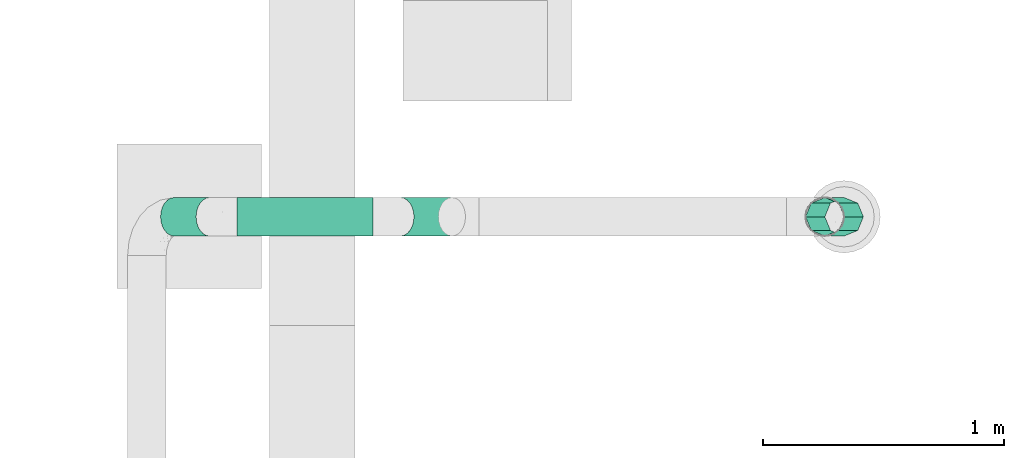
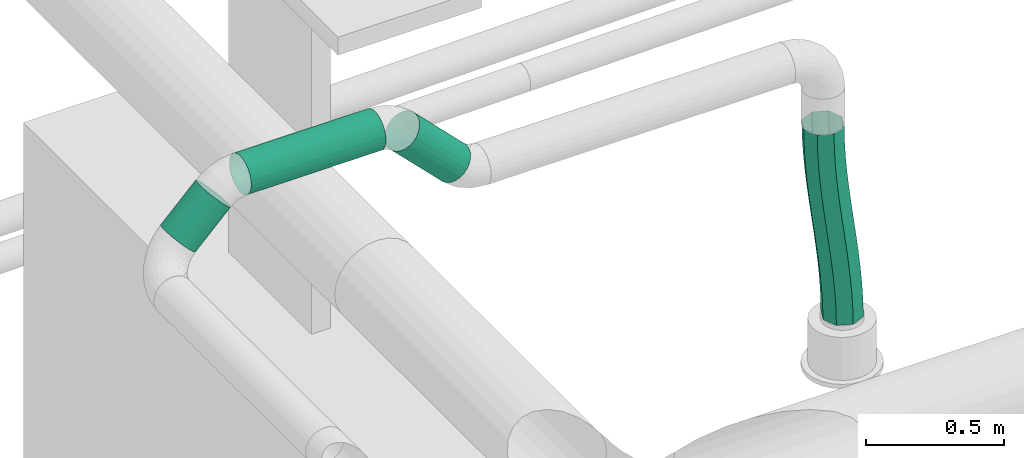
# One storey, part 250 of 374: 4 flow segments.
"""IFC2X3 building model written with IfcOpenShell, lengths in metres."""

from ifc_helpers import new_model, si_unit, direction, origin, place, context, subcontext, project, spatial, open_shell, surface_model, source, transform, mapped, element, save


model = new_model("IFC2X3")

# Units and contexts
model_context = context("Model", 3, precision=1e-05, world=origin(), true_north=direction((-0.4480736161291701, 0.8939966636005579)))
body_context = subcontext(model_context, "Body", "Model", "MODEL_VIEW")
ifc_project = project(units=[si_unit("LENGTHUNIT", "METRE"), si_unit("AREAUNIT", "SQUARE_METRE"), si_unit("VOLUMEUNIT", "CUBIC_METRE"), si_unit("PLANEANGLEUNIT", "RADIAN"), si_unit("THERMODYNAMICTEMPERATUREUNIT", "KELVIN"), si_unit("MASSUNIT", "GRAM", prefix="KILO"), si_unit("TIMEUNIT", "SECOND")], contexts=[model_context])

# Site, building, storey
site_placement = place(None, origin())
site = spatial("IfcSite", under=ifc_project, at=site_placement, Name="Site 1", CompositionType="ELEMENT")
building_placement = place(site_placement, origin())
building = spatial("IfcBuilding", under=site, at=building_placement, Name="Undefined", CompositionType="ELEMENT")
storey_placement = place(building_placement, origin())
storey = spatial("IfcBuildingStorey", under=building, at=storey_placement, Name="Rez de chauss\x8ee", CompositionType="ELEMENT", Elevation=0.0)

# Flow segments
shared_shape_1 = source(origin(), body_context, "Body", "SurfaceModel", [
    surface_model("IfcFaceBasedSurfaceModel", [(0.0, 0.020884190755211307, 0.0), (0.0, 0.0, 0.0), (0.30236881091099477, -7.105427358e-15, -1.776356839e-15), (0.30236881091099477, 0.0208841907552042, -8.8817842e-16), (0.0, -0.020172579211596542, -0.005405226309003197), (0.30236881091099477, -0.020172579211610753, -0.005405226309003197), (0.0, -0.03825881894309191, -0.015847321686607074), (0.30236881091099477, -0.038258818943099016, -0.015847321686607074), (0.0, -0.05302617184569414, -0.0306146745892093), (0.3023688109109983, -0.05302617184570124, -0.0306146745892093), (0.0, -0.06346826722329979, -0.04870091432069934), (0.30236881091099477, -0.0634682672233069, -0.04870091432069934), (0.0, -0.06887349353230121, -0.06887349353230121), (0.3023688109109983, -0.06887349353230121, -0.06887349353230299), (0.0, -0.06887349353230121, -0.08975768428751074), (0.30236881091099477, -0.06887349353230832, -0.08975768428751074), (0.0, -0.06346826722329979, -0.10993026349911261), (0.3023688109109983, -0.0634682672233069, -0.10993026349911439), (0.0, -0.05302617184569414, -0.12801650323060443), (0.30236881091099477, -0.05302617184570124, -0.12801650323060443), (0.0, -0.038258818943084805, -0.14278385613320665), (0.30236881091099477, -0.03825881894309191, -0.14278385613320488), (0.0, -0.020172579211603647, -0.15322595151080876), (0.3023688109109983, -0.020172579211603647, -0.15322595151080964), (0.0, 7.105427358e-15, -0.15863117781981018), (0.3023688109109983, 0.0, -0.15863117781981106), (0.0, 0.020884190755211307, -0.15863117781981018), (0.30236881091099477, 0.0208841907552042, -0.15863117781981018), (0.0, 0.04105676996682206, -0.15322595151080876), (0.30236881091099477, 0.041056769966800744, -0.15322595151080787), (0.0, 0.05914300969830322, -0.1427838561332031), (0.3023688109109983, 0.05914300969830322, -0.142783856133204), (0.0, 0.07391036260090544, -0.12801650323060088), (0.30236881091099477, 0.07391036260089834, -0.12801650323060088), (0.0, 0.0843524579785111, -0.10993026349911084), (0.3023688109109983, 0.08435245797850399, -0.10993026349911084), (0.0, 0.08975768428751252, -0.08975768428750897), (0.30236881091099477, 0.08975768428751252, -0.08975768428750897), (0.0, 0.08975768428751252, -0.06887349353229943), (0.3023688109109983, 0.08975768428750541, -0.06887349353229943), (0.0, 0.0843524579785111, -0.048700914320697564), (0.30236881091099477, 0.08435245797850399, -0.04870091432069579), (0.0, 0.07391036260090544, -0.030614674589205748), (0.3023688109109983, 0.07391036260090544, -0.030614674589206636), (0.0, 0.05914300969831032, -0.015847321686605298), (0.3023688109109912, 0.059143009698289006, -0.015847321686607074), (0.0, 0.04105676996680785, -0.005405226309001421), (0.30236881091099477, 0.041056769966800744, -0.005405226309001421)], [open_shell([[[0, 1, 2, 3]], [[1, 4, 5, 2]], [[4, 6, 7, 5]], [[6, 8, 9, 7]], [[8, 10, 11, 9]], [[10, 12, 13, 11]], [[12, 14, 15, 13]], [[14, 16, 17, 15]], [[16, 18, 19, 17]], [[18, 20, 21, 19]], [[20, 22, 23, 21]], [[22, 24, 25, 23]], [[24, 26, 27, 25]], [[26, 28, 29, 27]], [[28, 30, 31, 29]], [[30, 32, 33, 31]], [[32, 34, 35, 33]], [[34, 36, 37, 35]], [[36, 38, 39, 37]], [[38, 40, 41, 39]], [[40, 42, 43, 41]], [[42, 44, 45, 43]], [[44, 46, 47, 45]], [[46, 0, 3, 47]]])]),
])
flow_segment_1_placement = place(storey_placement, origin())
element("IfcFlowSegment", 1, at=flow_segment_1_placement, inside=storey, Name="Tube", ObjectType="Tube", context=body_context, shape_type="MappedRepresentation", body=[
    mapped(shared_shape_1, transform((46.529312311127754, 10.30835850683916, 3.8615039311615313), x_axis=(-0.7071067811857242, -1.962615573e-15, 0.7071067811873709), y_axis=(-0.701057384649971, -0.13052619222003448, -0.701057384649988), z_axis=(0.09229595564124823, -0.9914448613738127, 0.09229595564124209))),
])
shared_shape_2 = source(origin(), body_context, "Body", "SurfaceModel", [
    surface_model("IfcFaceBasedSurfaceModel", [(0.0, 0.020884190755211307, 0.0), (0.0, 0.0, 0.0), (0.5637199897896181, 4.4408921e-16, 0.0), (0.5637199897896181, 0.020884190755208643, 0.0), (0.0, -0.020172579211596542, -0.005405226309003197), (0.5637199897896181, -0.02017257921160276, -0.005405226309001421), (0.0, -0.03825881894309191, -0.015847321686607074), (0.5637199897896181, -0.03825881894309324, -0.015847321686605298), (0.0, -0.05302617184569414, -0.0306146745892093), (0.5637199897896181, -0.05302617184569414, -0.030614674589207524), (0.0, -0.06346826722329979, -0.04870091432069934), (0.5637199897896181, -0.06346826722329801, -0.048700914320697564), (0.0, -0.06887349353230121, -0.06887349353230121), (0.5637199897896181, -0.06887349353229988, -0.06887349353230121), (0.0, -0.06887349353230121, -0.08975768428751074), (0.5637199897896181, -0.06887349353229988, -0.08975768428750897), (0.0, -0.06346826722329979, -0.10993026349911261), (0.5637199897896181, -0.06346826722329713, -0.10993026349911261), (0.0, -0.05302617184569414, -0.12801650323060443), (0.5637199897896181, -0.05302617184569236, -0.12801650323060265), (0.0, -0.038258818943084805, -0.14278385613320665), (0.5637199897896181, -0.03825881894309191, -0.1427838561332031), (0.0, -0.020172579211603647, -0.15322595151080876), (0.5637199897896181, -0.020172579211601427, -0.15322595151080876), (0.0, 7.105427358e-15, -0.15863117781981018), (0.5637199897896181, 1.776356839e-15, -0.15863117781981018), (0.0, 0.020884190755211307, -0.15863117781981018), (0.5637199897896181, 0.020884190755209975, -0.15863117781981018), (0.0, 0.04105676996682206, -0.15322595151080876), (0.5637199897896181, 0.04105676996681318, -0.15322595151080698), (0.0, 0.05914300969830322, -0.1427838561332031), (0.5637199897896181, 0.059143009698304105, -0.1427838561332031), (0.0, 0.07391036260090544, -0.12801650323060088), (0.5637199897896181, 0.07391036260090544, -0.12801650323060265), (0.0, 0.0843524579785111, -0.10993026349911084), (0.5637199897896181, 0.08435245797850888, -0.10993026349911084), (0.0, 0.08975768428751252, -0.08975768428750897), (0.5637199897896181, 0.0897576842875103, -0.08975768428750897), (0.0, 0.08975768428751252, -0.06887349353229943), (0.5637199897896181, 0.08975768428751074, -0.06887349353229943), (0.0, 0.0843524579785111, -0.048700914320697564), (0.5637199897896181, 0.08435245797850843, -0.048700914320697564), (0.0, 0.07391036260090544, -0.030614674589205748), (0.5637199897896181, 0.07391036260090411, -0.030614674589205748), (0.0, 0.05914300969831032, -0.015847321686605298), (0.5637199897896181, 0.05914300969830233, -0.015847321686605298), (0.0, 0.04105676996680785, -0.005405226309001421), (0.5637199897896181, 0.041056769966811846, -0.005405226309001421)], [open_shell([[[0, 1, 2, 3]], [[1, 4, 5, 2]], [[4, 6, 7, 5]], [[6, 8, 9, 7]], [[8, 10, 11, 9]], [[10, 12, 13, 11]], [[12, 14, 15, 13]], [[14, 16, 17, 15]], [[16, 18, 19, 17]], [[18, 20, 21, 19]], [[20, 22, 23, 21]], [[22, 24, 25, 23]], [[24, 26, 27, 25]], [[26, 28, 29, 27]], [[28, 30, 31, 29]], [[30, 32, 33, 31]], [[32, 34, 35, 33]], [[34, 36, 37, 35]], [[36, 38, 39, 37]], [[38, 40, 41, 39]], [[40, 42, 43, 41]], [[42, 44, 45, 43]], [[44, 46, 47, 45]], [[46, 0, 3, 47]]])]),
])
flow_segment_2_placement = place(storey_placement, origin())
element("IfcFlowSegment", 2, at=flow_segment_2_placement, inside=storey, Name="Tube", ObjectType="Tube", context=body_context, shape_type="MappedRepresentation", body=[
    mapped(shared_shape_2, transform((45.62397431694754, 10.462906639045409, 4.1282055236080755), x_axis=(1.0, 0.0, 0.0), y_axis=(0.0, 0.13052619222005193, -0.9914448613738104), z_axis=(0.0, 0.9914448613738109, 0.1305261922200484))),
])
shared_shape_3 = source(origin(), body_context, "Body", "SurfaceModel", [
    surface_model("IfcFaceBasedSurfaceModel", [(0.20859650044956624, 0.0, -3.552713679e-15), (0.20859650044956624, 0.020884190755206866, -3.552713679e-15), (0.0, 0.020884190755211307, 0.0), (0.0, 0.0, 0.0), (0.20859650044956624, 0.0410567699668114, -0.005405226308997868), (0.0, 0.04105676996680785, -0.005405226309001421), (0.20859650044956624, 0.05914300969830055, -0.015847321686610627), (0.0, 0.05914300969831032, -0.015847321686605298), (0.20859650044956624, 0.07391036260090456, -0.030614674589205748), (0.0, 0.07391036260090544, -0.030614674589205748), (0.20859650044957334, 0.08435245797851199, -0.04870091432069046), (0.0, 0.0843524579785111, -0.048700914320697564), (0.20859650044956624, 0.08975768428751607, -0.06887349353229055), (0.0, 0.08975768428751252, -0.06887349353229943), (0.20859650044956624, 0.08975768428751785, -0.08975768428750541), (0.0, 0.08975768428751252, -0.08975768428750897), (0.20859650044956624, 0.0843524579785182, -0.10993026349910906), (0.0, 0.0843524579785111, -0.10993026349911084), (0.20859650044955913, 0.0739103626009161, -0.12801650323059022), (0.0, 0.07391036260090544, -0.12801650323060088), (0.20859650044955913, 0.059143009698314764, -0.14278385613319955), (0.0, 0.05914300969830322, -0.1427838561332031), (0.20859650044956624, 0.041056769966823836, -0.1532259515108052), (0.0, 0.04105676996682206, -0.15322595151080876), (0.20859650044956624, 0.020884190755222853, -0.15863117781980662), (0.0, 0.020884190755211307, -0.15863117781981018), (0.20859650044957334, 1.4210854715e-14, -0.15863117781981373), (0.0, 7.105427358e-15, -0.15863117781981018), (0.20859650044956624, -0.02017257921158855, -0.1532259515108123), (0.0, -0.020172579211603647, -0.15322595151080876), (0.20859650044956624, -0.03825881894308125, -0.14278385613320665), (0.0, -0.038258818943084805, -0.14278385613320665), (0.20859650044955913, -0.05302617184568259, -0.12801650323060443), (0.0, -0.05302617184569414, -0.12801650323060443), (0.20859650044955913, -0.06346826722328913, -0.10993026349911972), (0.0, -0.06346826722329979, -0.10993026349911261), (0.20859650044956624, -0.06887349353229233, -0.08975768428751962), (0.0, -0.06887349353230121, -0.08975768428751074), (0.20859650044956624, -0.0688734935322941, -0.06887349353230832), (0.0, -0.06887349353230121, -0.06887349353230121), (0.20859650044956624, -0.06346826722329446, -0.048700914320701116), (0.0, -0.06346826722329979, -0.04870091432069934), (0.20859650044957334, -0.05302617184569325, -0.030614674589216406), (0.0, -0.05302617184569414, -0.0306146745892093), (0.20859650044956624, -0.0382588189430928, -0.015847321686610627), (0.0, -0.03825881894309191, -0.015847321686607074), (0.20859650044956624, -0.020172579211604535, -0.005405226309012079), (0.0, -0.020172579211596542, -0.005405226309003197)], [open_shell([[[0, 1, 2, 3]], [[1, 4, 5, 2]], [[4, 6, 7, 5]], [[6, 8, 9, 7]], [[8, 10, 11, 9]], [[10, 12, 13, 11]], [[12, 14, 15, 13]], [[14, 16, 17, 15]], [[16, 18, 19, 17]], [[18, 20, 21, 19]], [[20, 22, 23, 21]], [[22, 24, 25, 23]], [[24, 26, 27, 25]], [[26, 28, 29, 27]], [[28, 30, 31, 29]], [[30, 32, 33, 31]], [[32, 34, 35, 33]], [[34, 36, 37, 35]], [[36, 38, 39, 37]], [[38, 40, 41, 39]], [[40, 42, 43, 41]], [[42, 44, 45, 43]], [[44, 46, 47, 45]], [[46, 0, 3, 47]]])]),
])
flow_segment_3_placement = place(storey_placement, origin())
element("IfcFlowSegment", 3, at=flow_segment_3_placement, inside=storey, Name="Tube", ObjectType="Tube", context=body_context, shape_type="MappedRepresentation", body=[
    mapped(shared_shape_3, transform((45.56740577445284, 10.385632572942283, 4.004068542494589), x_axis=(-0.7071067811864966, 0.0, -0.7071067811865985), y_axis=(-0.09229595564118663, 0.9914448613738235, 0.09229595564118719), z_axis=(0.7010573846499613, 0.13052619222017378, -0.7010573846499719))),
])
shared_shape_4 = source(origin(), body_context, "Body", "SurfaceModel", [
    surface_model("IfcFaceBasedSurfaceModel", [(0.09725409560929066, 0.0, 0.0), (0.05831469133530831, 0.047252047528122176, 0.0), (0.0, 0.0, 0.0), (0.03819787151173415, -0.047853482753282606, 1.0800056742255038e-06), (-0.05866964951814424, -0.04613450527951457, -0.0026363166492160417), (-0.021104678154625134, -0.09448639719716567, -0.002662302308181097), (-0.11750086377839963, -0.09128984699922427, -0.0073553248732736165), (-0.08043118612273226, -0.14002246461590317, -0.007419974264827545), (-0.1763631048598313, -0.1356511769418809, -0.013611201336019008), (-0.13964817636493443, -0.18465155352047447, -0.013712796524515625), (-0.23513013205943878, -0.1794020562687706, -0.02086763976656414), (-0.19862825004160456, -0.22856128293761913, -0.02099508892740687), (-0.29367773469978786, -0.22272275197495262, -0.0285976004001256), (-0.25724687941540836, -0.27193461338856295, -0.028734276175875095), (-0.3518823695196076, -0.26578929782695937, -0.036282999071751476), (-0.31538048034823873, -0.31494851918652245, -0.036410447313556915), (-0.4096207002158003, -0.3087731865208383, -0.043414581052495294), (-0.3729057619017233, -0.3577735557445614, -0.043516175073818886), (-0.4667700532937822, -0.3518416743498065, -0.04949204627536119), (-0.4297003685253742, -0.4005742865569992, -0.04955669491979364), (-0.5232097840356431, -0.39515872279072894, -0.054024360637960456), (-0.48564481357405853, -0.44351061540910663, -0.054050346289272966), (-0.5788235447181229, -0.43888670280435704, -0.05653000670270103), (-0.5406256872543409, -0.4867401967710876, -0.056528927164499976), (-0.6335578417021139, -0.48323475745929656, -0.05653526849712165), (-0.5946184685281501, -0.5304868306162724, -0.05653526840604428), (0.030113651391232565, 0.08011485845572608, -0.04328706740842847), (-0.0264108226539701, 0.03431480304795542, -0.04328967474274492), (-0.08355251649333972, -0.010616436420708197, -0.045860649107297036), (-0.14118798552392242, -0.05485262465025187, -0.05048631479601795), (-0.19919378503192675, -0.09856752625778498, -0.056652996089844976), (-0.2574464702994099, -0.14193490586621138, -0.0638470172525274), (-0.31582259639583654, -0.18512852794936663, -0.07155470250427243), (-0.37419872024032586, -0.22832215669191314, -0.07926237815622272), (-0.43245139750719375, -0.27168954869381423, -0.08645637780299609), (-0.49045718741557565, -0.31540446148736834, -0.09262303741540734), (-0.5480926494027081, -0.359640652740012, -0.09724869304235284), (-0.6052343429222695, -0.4045718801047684, -0.09981968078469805), (-0.6617588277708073, -0.4503719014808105, -0.09982233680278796), (0.029170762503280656, 0.07933784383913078, -0.10450422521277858), (-0.02556349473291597, 0.034989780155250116, -0.10450943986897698), (-0.08117723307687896, -0.008738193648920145, -0.10701507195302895), (-0.13761695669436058, -0.05205522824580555, -0.11154739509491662), (-0.19476631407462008, -0.09512370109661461, -0.11762488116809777), (-0.25250465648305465, -0.13810758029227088, -0.12475648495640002), (-0.31070930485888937, -0.18117412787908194, -0.1324418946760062), (-0.36925691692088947, -0.22449483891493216, -0.1401718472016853), (-0.4280239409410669, -0.26824573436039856, -0.14742826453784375), (-0.4868861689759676, -0.31260707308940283, -0.15368411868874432), (-0.545717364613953, -0.3577624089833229, -0.15840311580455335), (-0.6043869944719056, -0.40389688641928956, -0.16103944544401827), (-0.6627016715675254, -0.4511488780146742, -0.16103949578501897), (0.05603835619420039, 0.045376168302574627, -0.14779129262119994), (0.0020456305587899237, 0.001629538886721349, -0.14779758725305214), (-0.052935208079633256, -0.04160002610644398, -0.15027615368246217), (-0.1088796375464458, -0.0845363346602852, -0.15476981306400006), (-0.16567424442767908, -0.12733704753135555, -0.16081035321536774), (-0.2231995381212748, -0.17016207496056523, -0.16791610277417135), (-0.2813331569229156, -0.2131759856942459, -0.17559228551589), (-0.3399518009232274, -0.2565493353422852, -0.18333146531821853), (-0.39893187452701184, -0.3004590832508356, -0.19061373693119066), (-0.458148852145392, -0.3450881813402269, -0.19690653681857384), (-0.5174753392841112, -0.3906242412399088, -0.2016641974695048), (-0.576777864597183, -0.4372571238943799, -0.20432759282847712), (-0.6358340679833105, -0.4851105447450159, -0.20432656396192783), (0.09497776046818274, -0.0018758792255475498, -0.14779129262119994), (0.04024350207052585, -0.04622394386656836, -0.1477965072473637), (-0.01537023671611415, -0.08995191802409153, -0.15030213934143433), (-0.07180995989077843, -0.13326895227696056, -0.154834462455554), (-0.1289593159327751, -0.17633742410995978, -0.16091194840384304), (-0.18669765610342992, -0.21932130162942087, -0.16804355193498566), (-0.244902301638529, -0.26238784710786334, -0.17572896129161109), (-0.303449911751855, -0.3057085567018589, -0.18345891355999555), (-0.3622169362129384, -0.3494594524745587, -0.19071533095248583), (-0.42107916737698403, -0.39382079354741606, -0.1969711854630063), (-0.4799103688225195, -0.43897613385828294, -0.201690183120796), (-0.5385800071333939, -0.4851106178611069, -0.20432651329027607), (-0.5968946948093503, -0.5323626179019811, -0.20432656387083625), (0.12317880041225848, -0.03473869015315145, -0.10450422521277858), (0.0666543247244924, -0.08053874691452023, -0.10450683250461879), (0.009512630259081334, -0.12546998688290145, -0.10707780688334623), (-0.048122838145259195, -0.1697061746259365, -0.11170347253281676), (-0.10612863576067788, -0.2134210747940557, -0.11787015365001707), (-0.16438131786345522, -0.25678845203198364, -0.1250641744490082), (-0.22275743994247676, -0.2999820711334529, -0.13277185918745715), (-0.2811335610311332, -0.3431756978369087, -0.1404795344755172), (-0.33938623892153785, -0.3865430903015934, -0.14767353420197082), (-0.397392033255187, -0.43025800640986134, -0.15384019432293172), (-0.45502750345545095, -0.47449420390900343, -0.1584658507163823), (-0.5121692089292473, -0.5194254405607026, -0.16103683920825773), (-0.5686937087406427, -0.5652254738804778, -0.16103949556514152), (0.12412168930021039, -0.03396167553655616, -0.043287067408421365), (0.06580699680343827, -0.08121372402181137, -0.04328706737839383), (0.007137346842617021, -0.1273482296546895, -0.04592338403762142), (-0.05169386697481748, -0.17250357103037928, -0.05064239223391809), (-0.11055610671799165, -0.2168648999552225, -0.05689826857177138), (-0.1693231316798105, -0.2606157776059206, -0.06415470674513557), (-0.2278707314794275, -0.30393647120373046, -0.07188466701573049), (-0.2860753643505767, -0.34700301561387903, -0.07957006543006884), (-0.3438136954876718, -0.3899869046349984, -0.08670164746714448), (-0.4009630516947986, -0.4330553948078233, -0.09277911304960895), (-0.4574027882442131, -0.476372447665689, -0.09731142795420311), (-0.5130165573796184, -0.5201004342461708, -0.09981707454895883), (-0.5677508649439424, -0.5644484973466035, -0.09982233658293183)], [open_shell([[[0, 1, 2]], [[2, 3, 0]], [[3, 2, 4]], [[4, 5, 3]], [[5, 4, 6]], [[6, 7, 5]], [[7, 6, 8]], [[8, 9, 7]], [[9, 8, 10]], [[10, 11, 9]], [[11, 10, 12]], [[12, 13, 11]], [[13, 12, 14]], [[14, 15, 13]], [[15, 14, 16]], [[16, 17, 15]], [[17, 16, 18]], [[18, 19, 17]], [[19, 18, 20]], [[20, 21, 19]], [[21, 20, 22]], [[22, 23, 21]], [[23, 22, 24]], [[24, 25, 23]], [[1, 26, 27]], [[27, 2, 1]], [[2, 27, 28]], [[28, 4, 2]], [[4, 28, 29]], [[29, 6, 4]], [[6, 29, 30]], [[30, 8, 6]], [[8, 30, 31]], [[31, 10, 8]], [[10, 31, 32]], [[32, 12, 10]], [[12, 32, 33]], [[33, 14, 12]], [[14, 33, 34]], [[34, 16, 14]], [[16, 34, 35]], [[35, 18, 16]], [[18, 35, 36]], [[36, 20, 18]], [[20, 36, 37]], [[37, 22, 20]], [[22, 37, 38]], [[38, 24, 22]], [[26, 39, 40]], [[40, 27, 26]], [[27, 40, 41]], [[41, 28, 27]], [[28, 41, 42]], [[42, 29, 28]], [[29, 42, 43]], [[43, 30, 29]], [[30, 43, 44]], [[44, 31, 30]], [[31, 44, 45]], [[45, 32, 31]], [[32, 45, 46]], [[46, 33, 32]], [[33, 46, 47]], [[47, 34, 33]], [[34, 47, 48]], [[48, 35, 34]], [[35, 48, 49]], [[49, 36, 35]], [[36, 49, 50]], [[50, 37, 36]], [[37, 50, 51]], [[51, 38, 37]], [[39, 52, 53]], [[53, 40, 39]], [[40, 53, 54]], [[54, 41, 40]], [[41, 54, 55]], [[55, 42, 41]], [[42, 55, 56]], [[56, 43, 42]], [[43, 56, 57]], [[57, 44, 43]], [[44, 57, 58]], [[58, 45, 44]], [[45, 58, 59]], [[59, 46, 45]], [[46, 59, 60]], [[60, 47, 46]], [[47, 60, 61]], [[61, 48, 47]], [[48, 61, 62]], [[62, 49, 48]], [[49, 62, 63]], [[63, 50, 49]], [[50, 63, 64]], [[64, 51, 50]], [[52, 65, 66]], [[66, 53, 52]], [[53, 66, 67]], [[67, 54, 53]], [[54, 67, 68]], [[68, 55, 54]], [[55, 68, 69]], [[69, 56, 55]], [[56, 69, 70]], [[70, 57, 56]], [[57, 70, 71]], [[71, 58, 57]], [[58, 71, 72]], [[72, 59, 58]], [[59, 72, 73]], [[73, 60, 59]], [[60, 73, 74]], [[74, 61, 60]], [[61, 74, 75]], [[75, 62, 61]], [[62, 75, 76]], [[76, 63, 62]], [[63, 76, 77]], [[77, 64, 63]], [[65, 78, 79]], [[79, 66, 65]], [[66, 79, 80]], [[80, 67, 66]], [[67, 80, 81]], [[81, 68, 67]], [[68, 81, 82]], [[82, 69, 68]], [[69, 82, 83]], [[83, 70, 69]], [[70, 83, 84]], [[84, 71, 70]], [[71, 84, 85]], [[85, 72, 71]], [[72, 85, 86]], [[86, 73, 72]], [[73, 86, 87]], [[87, 74, 73]], [[74, 87, 88]], [[88, 75, 74]], [[75, 88, 89]], [[89, 76, 75]], [[76, 89, 90]], [[90, 77, 76]], [[78, 91, 92]], [[92, 79, 78]], [[79, 92, 93]], [[93, 80, 79]], [[80, 93, 94]], [[94, 81, 80]], [[81, 94, 95]], [[95, 82, 81]], [[82, 95, 96]], [[96, 83, 82]], [[83, 96, 97]], [[97, 84, 83]], [[84, 97, 98]], [[98, 85, 84]], [[85, 98, 99]], [[99, 86, 85]], [[86, 99, 100]], [[100, 87, 86]], [[87, 100, 101]], [[101, 88, 87]], [[88, 101, 102]], [[102, 89, 88]], [[89, 102, 103]], [[103, 90, 89]], [[91, 0, 3]], [[3, 92, 91]], [[92, 3, 5]], [[5, 93, 92]], [[93, 5, 7]], [[7, 94, 93]], [[94, 7, 9]], [[9, 95, 94]], [[95, 9, 11]], [[11, 96, 95]], [[96, 11, 13]], [[13, 97, 96]], [[97, 13, 15]], [[15, 98, 97]], [[98, 15, 17]], [[17, 99, 98]], [[99, 17, 19]], [[19, 100, 99]], [[100, 19, 21]], [[21, 101, 100]], [[101, 21, 23]], [[23, 102, 101]], [[102, 23, 25]], [[25, 103, 102]]])]),
])
flow_segment_4_placement = place(storey_placement, origin())
element("IfcFlowSegment", 4, at=flow_segment_4_placement, inside=storey, Name="Tube flexible", ObjectType="Tube flexible", context=body_context, shape_type="MappedRepresentation", body=[
    mapped(shared_shape_4, transform((48.006260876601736, 10.442201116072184, 3.4049618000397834), x_axis=(-0.2575983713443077, -0.5816571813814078, 0.7715685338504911), y_axis=(0.2836010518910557, 0.7178346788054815, 0.6358331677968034), z_axis=(-0.9236955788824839, 0.3826072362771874, -0.019954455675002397))),
])

save(model, "model.ifc")
